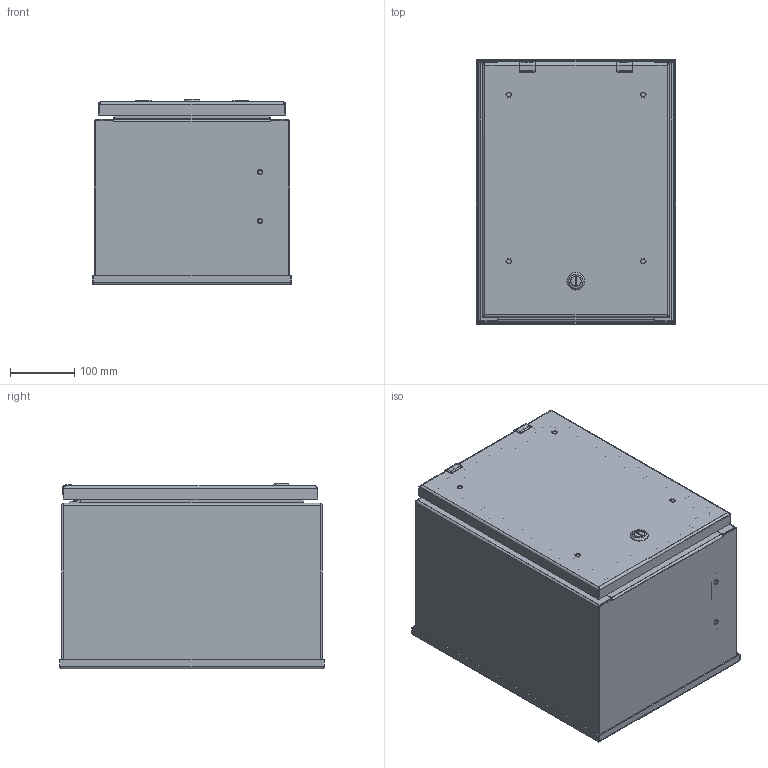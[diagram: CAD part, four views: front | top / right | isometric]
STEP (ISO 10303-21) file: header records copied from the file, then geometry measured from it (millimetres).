
FILE_DESCRIPTION((''),'2;1');
FILE_NAME('MODEL-364_ASM','2023-02-17T14:03:57',('joshi'),('SAGINAW CONTROL & ENGINEERING'),'CREO PARAMETRIC BY PTC INC, 2021284','CREO PARAMETRIC BY PTC INC, 2021284','');
FILE_SCHEMA(('AUTOMOTIVE_DESIGN { 1 0 10303 214 1 1 1 1 }'));
Length unit declared in the file: inch
Products named in the file (31): MODEL-364-BDY; MODEL-364-R-SIDE; MODEL-364-L-SIDE; MODEL-364-R-DR; 103465; 100794_SHAFT; 100794_INSERT; 100794_CAM; 100794_NUT; 100794_SCREW; 100794_ASM; 126392; 126392_ASM; 126395; 102483; 101226; 101389; 102140; MODEL-364-PR-GSKT-R; 127573; 100012; 122255; 127497; 100882; MODEL-364-F-DR; MODEL-364-PR-GSKT-F; 100837; CH-ELJ_SUBPANEL; 102479; CH-ELJ_SUBPANEL-SUBASSEMBLY_ASM; MODEL-364_ASM
Assembly tree (77 placements, depth 3):
  MODEL-364_ASM
    MODEL-364-BDY
    MODEL-364-R-SIDE
    MODEL-364-L-SIDE
    MODEL-364-R-DR
    103465  x9
    100794_ASM
      100794_SHAFT
      100794_INSERT
      100794_CAM
      100794_NUT
      100794_SCREW
    126392_ASM  x2
      126392
    126395  x2
    102483  x6
    101226  x2
    101389  x2
    102140  x2
    MODEL-364-PR-GSKT-R
    127573
    100012  x4
    122255
    127497  x2
    100882  x16
    MODEL-364-F-DR
    MODEL-364-PR-GSKT-F
    100837  x8
    CH-ELJ_SUBPANEL-SUBASSEMBLY_ASM
      CH-ELJ_SUBPANEL
      102479  x4
Bounding box: 311.66 x 413.26 x 289.44 mm (x, y, z)
Volume: 1934961.2 mm3; surface area: 1913208 mm2
Topology: 75 solids, 75 shells, 6248 faces, 16705 edges, 10576 vertices
Faces by surface type: bspline 2488, plane 2304, cylinder 1009, torus 237, cone 190, sphere 20
Entity records: 94066 total; most frequent: CARTESIAN_POINT 27498, ORIENTED_EDGE 9562, DIRECTION 9021, PRESENTATION_STYLE_ASSIGNMENT 4982, EDGE_CURVE 4781, STYLED_ITEM 4707, CURVE_STYLE 4619, AXIS2_PLACEMENT_3D 3268
